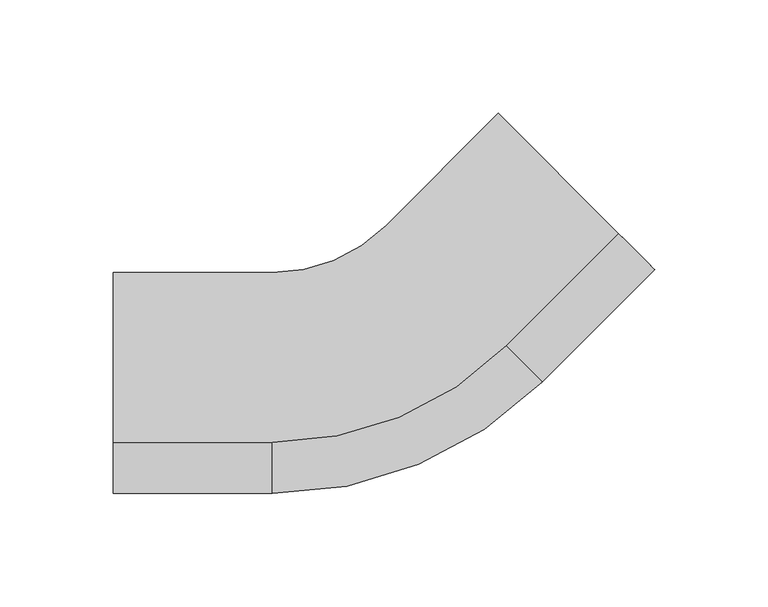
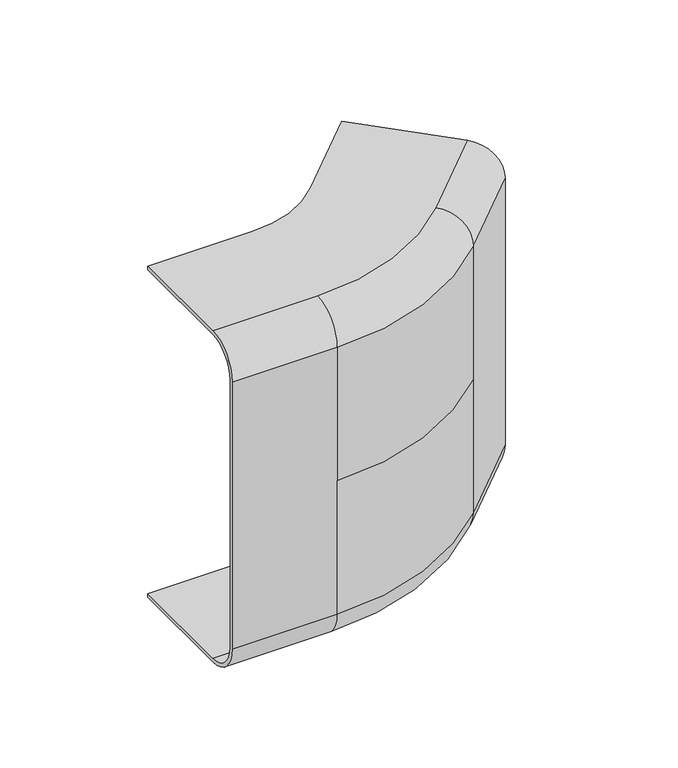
"""IFC4 building model written with IfcOpenShell, lengths in millimetres: cable carrier fitting geometry, ССT_Hyperline_FBTR-IRS45 Угол 45° внутренний (вверх) для оптического лотка : Угол 45° внутренний (вверх) для оптического лотка."""

from ifc_helpers import new_model, si_unit, point, frame, origin, place, context, project, spatial, polyline, circle_curve, ellipse_curve, trimmed, source, transform, mapped, element, save
from ifc_brep_helpers import plane_surface, cylinder_surface, revolved_surface, advanced_brep


def cable_carrier_fitting_4b1483c7(model_context):
    return source(origin(), model_context, "Body", "AdvancedBrep", [
        advanced_brep(
        [(116.6255217, 53.3960333, 94.0), (102.483386, 67.5381689, 114.0), (49.4786617, 120.5428932, 114.0), (49.4786617, 120.5428932, 116.54), (102.483386, 67.5381689, 116.54), (118.4215729, 51.5999821, 94.0), (118.4215729, 51.5999821, -94.0), (102.483386, 67.5381689, -116.54), (49.4786617, 120.5428932, -116.54), (49.4786617, 120.5428932, -114.0), (102.483386, 67.5381689, -114.0), (116.6255217, 53.3960333, -94.0), (52.9859114, 18.0406942, -114.0), (67.128047, 3.8985586, -94.0), (-0.018813, 71.0454185, -114.0), (-50.2233944, 50.25, -114.0), (-120.2233944, 50.25, -114.0), (-120.2233944, -24.71, -114.0), (-50.2233944, -24.71, -114.0), (-0.018813, 71.0454185, -116.54), (52.9859114, 18.0406942, -116.54), (-50.2233944, -24.71, -116.54), (-120.2233944, -24.71, -116.54), (-120.2233944, 50.25, -116.54), (-50.2233944, 50.25, -116.54), (68.9240982, 2.1025074, -94.0), (68.9240982, 2.1025074, 94.0), (68.9240982, 2.1025074, 0.0), (67.128047, 3.8985586, 0.0), (67.128047, 3.8985586, 94.0), (-50.2233944, -44.71, -94.0), (-50.2233944, -47.25, -94.0), (-50.2233944, -47.25, 0.0), (-50.2233944, -44.71, 0.0), (-120.2233944, -47.25, -94.0), (-120.2233944, -47.25, 94.0), (-120.2233944, -24.71, 116.54), (-120.2233944, 50.25, 116.54), (-120.2233944, 50.25, 114.0), (-120.2233944, -24.71, 114.0), (-120.2233944, -44.71, 94.0), (-120.2233944, -44.71, -94.0), (-50.2233944, -47.25, 94.0), (-50.2233944, -44.71, 94.0), (52.9859114, 18.0406942, 114.0), (-50.2233944, -24.71, 114.0), (-50.2233944, 50.25, 114.0), (-0.018813, 71.0454185, 114.0), (-0.018813, 71.0454185, 116.54), (-50.2233944, 50.25, 116.54), (-50.2233944, -24.71, 116.54), (52.9859114, 18.0406942, 116.54)],
        [
            (0, 1, circle_curve(frame((102.483386, 67.5381689, 94.0), z_axis=(-0.7071067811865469, -0.7071067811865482, 0.0), x_axis=(0.7071067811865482, -0.7071067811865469, 0.0)), 20.0)),
            (1, 2),
            (2, 3),
            (3, 4),
            (4, 5, circle_curve(frame((102.483386, 67.5381689, 94.0), z_axis=(0.7071067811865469, 0.7071067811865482, 0.0), x_axis=(0.7071067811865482, -0.7071067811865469, 0.0)), 22.54)),
            (5, 6),
            (6, 7, circle_curve(frame((102.483386, 67.5381689, -94.0), z_axis=(0.7071067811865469, 0.7071067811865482, 0.0), x_axis=(0.7071067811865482, -0.7071067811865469, 0.0)), 22.54)),
            (7, 8),
            (8, 9),
            (9, 10),
            (10, 11, circle_curve(frame((102.483386, 67.5381689, -94.0), z_axis=(-0.7071067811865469, -0.7071067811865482, 0.0), x_axis=(0.7071067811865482, -0.7071067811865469, 0.0)), 20.0)),
            (11, 0),
            (10, 12),
            (12, 13, circle_curve(frame((52.9859114, 18.0406942, -94.0), z_axis=(-0.7071067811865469, -0.7071067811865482, 0.0), x_axis=(0.7071067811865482, -0.7071067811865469, 0.0)), 20.0)),
            (13, 11),
            (9, 14),
            (14, 15, circle_curve(frame((-50.2233944, 121.25, -114.0), z_axis=(0.0, 0.0, -1.0), x_axis=(0.7071067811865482, -0.7071067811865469, 0.0)), 71.0)),
            (15, 16),
            (16, 17),
            (17, 18),
            (18, 12, circle_curve(frame((-50.2233944, 121.25, -114.0), z_axis=(0.0, 0.0, 1.0), x_axis=(0.7071067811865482, -0.7071067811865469, 0.0)), 145.96)),
            (8, 19),
            (19, 14),
            (7, 20),
            (20, 21, circle_curve(frame((-50.2233944, 121.25, -116.54), z_axis=(0.0, 0.0, -1.0), x_axis=(0.7071067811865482, -0.7071067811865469, 0.0)), 145.96)),
            (21, 22),
            (22, 23),
            (23, 24),
            (24, 19, circle_curve(frame((-50.2233944, 121.25, -116.54), z_axis=(0.0, 0.0, 1.0), x_axis=(0.7071067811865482, -0.7071067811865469, 0.0)), 71.0)),
            (6, 25),
            (25, 20, circle_curve(frame((52.9859114, 18.0406942, -94.0), z_axis=(0.7071067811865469, 0.7071067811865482, 0.0), x_axis=(0.7071067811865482, -0.7071067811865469, 0.0)), 22.54)),
            (5, 26),
            (26, 27),
            (27, 25),
            (13, 28),
            (28, 29),
            (29, 0),
            (18, 30, circle_curve(frame((-50.2233944, -24.71, -94.0), z_axis=(-1.0, 0.0, 0.0), x_axis=(0.0, -1.0, 0.0)), 20.0)),
            (30, 13, circle_curve(frame((-50.2233944, 121.25, -94.0), z_axis=(0.0, 0.0, 1.0), x_axis=(0.7071067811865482, -0.7071067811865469, 0.0)), 165.96)),
            (24, 15),
            (25, 31, circle_curve(frame((-50.2233944, 121.25, -94.0), z_axis=(0.0, 0.0, -1.0), x_axis=(0.7071067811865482, -0.7071067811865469, 0.0)), 168.5)),
            (31, 21, circle_curve(frame((-50.2233944, -24.71, -94.0), z_axis=(1.0, 0.0, 0.0), x_axis=(0.0, -1.0, 0.0)), 22.54)),
            (27, 32, circle_curve(frame((-50.2233944, 121.25, 0.0), z_axis=(0.0, 0.0, -1.0), x_axis=(0.7071067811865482, -0.7071067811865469, 0.0)), 168.5)),
            (32, 31),
            (30, 33),
            (33, 28, circle_curve(frame((-50.2233944, 121.25, 0.0), z_axis=(0.0, 0.0, 1.0), x_axis=(0.7071067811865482, -0.7071067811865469, 0.0)), 165.96)),
            (16, 23),
            (22, 34, circle_curve(frame((-120.2233944, -24.71, -94.0), z_axis=(-1.0, 0.0, 0.0), x_axis=(0.0, -1.0, 0.0)), 22.54)),
            (34, 35),
            (35, 36, circle_curve(frame((-120.2233944, -24.71, 94.0), z_axis=(-1.0, 0.0, 0.0), x_axis=(0.0, -1.0000000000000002, 0.0)), 22.54)),
            (36, 37),
            (37, 38),
            (38, 39),
            (39, 40, circle_curve(frame((-120.2233944, -24.71, 94.0), z_axis=(1.0, 0.0, 0.0), x_axis=(0.0, -1.0000000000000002, 0.0)), 20.0)),
            (40, 41),
            (41, 17, circle_curve(frame((-120.2233944, -24.71, -94.0), z_axis=(1.0, 0.0, 0.0), x_axis=(0.0, -1.0, 0.0)), 20.0)),
            (41, 30),
            (31, 34),
            (32, 42),
            (42, 35),
            (40, 43),
            (43, 33),
            (29, 44, circle_curve(frame((52.9859114, 18.0406942, 94.0), z_axis=(-0.7071067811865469, -0.7071067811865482, 0.0), x_axis=(0.7071067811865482, -0.7071067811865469, 0.0)), 20.0)),
            (44, 1),
            (44, 45, circle_curve(frame((-50.2233944, 121.25, 114.0), z_axis=(0.0, 0.0, -1.0), x_axis=(0.7071067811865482, -0.7071067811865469, 0.0)), 145.96)),
            (45, 39),
            (38, 46),
            (46, 47, circle_curve(frame((-50.2233944, 121.25, 114.0), z_axis=(0.0, 0.0, 1.0), x_axis=(0.7071067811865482, -0.7071067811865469, 0.0)), 71.0)),
            (47, 2),
            (47, 48),
            (48, 3),
            (48, 49, circle_curve(frame((-50.2233944, 121.25, 116.54), z_axis=(0.0, 0.0, -1.0), x_axis=(0.7071067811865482, -0.7071067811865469, 0.0)), 71.0)),
            (49, 37),
            (36, 50),
            (50, 51, circle_curve(frame((-50.2233944, 121.25, 116.54), z_axis=(0.0, 0.0, 1.0), x_axis=(0.7071067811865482, -0.7071067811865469, 0.0)), 145.96)),
            (51, 4),
            (51, 26, circle_curve(frame((52.9859114, 18.0406942, 94.0), z_axis=(0.7071067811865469, 0.7071067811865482, 0.0), x_axis=(0.7071067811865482, -0.7071067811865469, 0.0)), 22.54)),
            (29, 43, circle_curve(frame((-50.2233944, 121.25, 94.0), z_axis=(0.0, 0.0, -1.0), x_axis=(0.7071067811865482, -0.7071067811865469, 0.0)), 165.96)),
            (43, 45, circle_curve(frame((-50.2233944, -24.71, 94.0), z_axis=(-1.0, 0.0, 0.0), x_axis=(0.0, -1.0, 0.0)), 20.0)),
            (46, 49),
            (50, 42, circle_curve(frame((-50.2233944, -24.71, 94.0), z_axis=(1.0, 0.0, 0.0), x_axis=(0.0, -1.0, 0.0)), 22.54)),
            (42, 26, circle_curve(frame((-50.2233944, 121.25, 94.0), z_axis=(0.0, 0.0, 1.0), x_axis=(0.7071067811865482, -0.7071067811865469, 0.0)), 168.5)),
        ],
        [
            plane_surface(frame((84.126894, 85.8946609, -55.0), z_axis=(0.7071067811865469, 0.7071067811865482, 0.0), x_axis=(0.0, 0.0, 1.0))),
            revolved_surface(polyline([(67.12804697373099, 3.8985586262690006, -94.0), (116.62552167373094, 53.39603332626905, -94.0)]), (102.483386, 67.5381689, -94.0), (-0.7071067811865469, -0.7071067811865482, 0.0)),
            plane_surface(frame((49.4786617, 120.5428932, -114.0), z_axis=(0.0, 0.0, 1.0), x_axis=(-0.7071067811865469, -0.7071067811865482, 0.0))),
            plane_surface(frame((49.4786617, 120.5428932, -116.54), z_axis=(-0.7071067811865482, 0.7071067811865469, 0.0), x_axis=(-0.7071067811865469, -0.7071067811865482, 0.0))),
            plane_surface(frame((102.483386, 67.5381689, -116.54), z_axis=(0.0, 0.0, -1.0), x_axis=(-0.7071067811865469, -0.7071067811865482, 0.0))),
            cylinder_surface(frame((102.483386, 67.5381689, -94.0), z_axis=(0.7071067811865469, 0.7071067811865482, 0.0), x_axis=(0.7071067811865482, -0.7071067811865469, 0.0)), 22.54),
            plane_surface(frame((118.4215729, 51.5999821, 0.0), z_axis=(0.7071067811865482, -0.7071067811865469, 0.0), x_axis=(-0.7071067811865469, -0.7071067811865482, 0.0))),
            plane_surface(frame((116.6255217, 53.3960333, -94.0), z_axis=(-0.7071067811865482, 0.7071067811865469, 0.0), x_axis=(-0.7071067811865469, -0.7071067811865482, 0.0))),
            revolved_surface(trimmed(ellipse_curve(frame((52.9859114, 18.0406942, -94.0), z_axis=(-0.7071067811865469, -0.7071067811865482, 0.0), x_axis=(0.7071067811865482, -0.7071067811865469, 0.0)), 20.0, 20.0), [point((52.9859114, 18.0406942, -114.0))], [point((67.128047, 3.8985586, -94.0))], True, "CARTESIAN"), (-50.2233944, 121.25, -55.0), (0.0, 0.0, -1.0)),
            revolved_surface(polyline([(-0.018812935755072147, 71.04541853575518, -116.54), (-0.018812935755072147, 71.04541853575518, -114.0)]), (-50.2233944, 121.25, -55.0), (0.0, 0.0, -1.0)),
            revolved_surface(trimmed(ellipse_curve(frame((52.9859114, 18.0406942, -94.0), z_axis=(0.7071067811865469, 0.7071067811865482, 0.0), x_axis=(0.7071067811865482, -0.7071067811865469, 0.0)), 22.54, 22.54), [point((68.9240982, 2.1025074, -94.0))], [point((52.9859114, 18.0406942, -116.54))], True, "CARTESIAN"), (-50.2233944, 121.25, -55.0), (0.0, 0.0, -1.0)),
            cylinder_surface(frame((-50.2233944, 121.25, -55.0), z_axis=(0.0, 0.0, -1.0), x_axis=(0.7071067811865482, -0.7071067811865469, 0.0)), 168.5),
            revolved_surface(polyline([(67.12804700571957, 3.898558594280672, -94.0), (67.12804700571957, 3.898558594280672, 0.0)]), (-50.2233944, 121.25, -55.0), (0.0, 0.0, -1.0)),
            plane_surface(frame((-120.2233944, 1.25, -55.0), z_axis=(-1.0, 0.0, 0.0), x_axis=(0.0, 0.0, 1.0))),
            revolved_surface(polyline([(-120.22339439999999, -44.71, -94.0), (-50.2233944, -44.71, -94.0)]), (-50.2233944, -24.71, -94.0), (-1.0, 0.0, 0.0)),
            plane_surface(frame((-50.2233944, 50.25, -116.54), z_axis=(0.0, 1.0, 0.0), x_axis=(-1.0, 0.0, 0.0))),
            cylinder_surface(frame((-50.2233944, -24.71, -94.0), z_axis=(1.0, 0.0, 0.0), x_axis=(0.0, -1.0, 0.0)), 22.54),
            plane_surface(frame((-50.2233944, -47.25, 0.0), z_axis=(0.0, -1.0, 0.0), x_axis=(-1.0, 0.0, 0.0))),
            plane_surface(frame((-50.2233944, -44.71, -94.0), z_axis=(0.0, 1.0, 0.0), x_axis=(-1.0, 0.0, 0.0))),
            revolved_surface(polyline([(67.12804697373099, 3.8985586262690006, 94.0), (116.62552167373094, 53.39603332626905, 94.0)]), (102.483386, 67.5381689, 94.0), (-0.7071067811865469, -0.7071067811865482, 0.0)),
            plane_surface(frame((102.483386, 67.5381689, 114.0), z_axis=(0.0, 0.0, -1.0), x_axis=(-0.7071067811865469, -0.7071067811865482, 0.0))),
            plane_surface(frame((49.4786617, 120.5428932, 114.0), z_axis=(-0.7071067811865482, 0.7071067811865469, 0.0), x_axis=(-0.7071067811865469, -0.7071067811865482, 0.0))),
            plane_surface(frame((49.4786617, 120.5428932, 116.54), z_axis=(0.0, 0.0, 1.0), x_axis=(-0.7071067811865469, -0.7071067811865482, 0.0))),
            cylinder_surface(frame((102.483386, 67.5381689, 94.0), z_axis=(0.7071067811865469, 0.7071067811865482, 0.0), x_axis=(0.7071067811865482, -0.7071067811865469, 0.0)), 22.54),
            revolved_surface(trimmed(ellipse_curve(frame((52.9859114, 18.0406942, 94.0), z_axis=(-0.7071067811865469, -0.7071067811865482, 0.0), x_axis=(0.7071067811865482, -0.7071067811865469, 0.0)), 20.0, 20.0), [point((67.128047, 3.8985586, 94.0))], [point((52.9859114, 18.0406942, 114.0))], True, "CARTESIAN"), (-50.2233944, 121.25, 55.0), (0.0, 0.0, -1.0)),
            revolved_surface(polyline([(-0.018812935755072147, 71.04541853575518, 114.0), (-0.018812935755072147, 71.04541853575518, 116.54)]), (-50.2233944, 121.25, 55.0), (0.0, 0.0, -1.0)),
            revolved_surface(trimmed(ellipse_curve(frame((52.9859114, 18.0406942, 94.0), z_axis=(0.7071067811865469, 0.7071067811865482, 0.0), x_axis=(0.7071067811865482, -0.7071067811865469, 0.0)), 22.54, 22.54), [point((52.9859114, 18.0406942, 116.54))], [point((68.9240982, 2.1025074, 94.0))], True, "CARTESIAN"), (-50.2233944, 121.25, 55.0), (0.0, 0.0, -1.0)),
            cylinder_surface(frame((-50.2233944, 121.25, 55.0), z_axis=(0.0, 0.0, -1.0), x_axis=(0.7071067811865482, -0.7071067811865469, 0.0)), 168.5),
            revolved_surface(polyline([(67.12804700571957, 3.898558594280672, 0.0), (67.12804700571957, 3.898558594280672, 94.0)]), (-50.2233944, 121.25, 55.0), (0.0, 0.0, -1.0)),
            revolved_surface(polyline([(-120.22339440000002, -44.71000000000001, 94.0), (-50.2233944, -44.71000000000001, 94.0)]), (-50.2233944, -24.71, 94.0), (-1.0000000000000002, 0.0, 0.0)),
            plane_surface(frame((-50.2233944, 50.25, 114.0), z_axis=(0.0, 1.0, 0.0), x_axis=(-1.0, 0.0, 0.0))),
            cylinder_surface(frame((-50.2233944, -24.71, 94.0), z_axis=(1.0000000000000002, 0.0, 0.0), x_axis=(0.0, -1.0000000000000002, 0.0)), 22.54),
        ],
        [
            (0, [[1, 2, 3, 4, 5, 6, 7, 8, 9, 10, 11, 12]]),
            (1, [[-11, 13, 14, 15]]),
            (2, [[-10, 16, 17, 18, 19, 20, 21, -13]]),
            (3, [[-9, 22, 23, -16]]),
            (4, [[-8, 24, 25, 26, 27, 28, 29, -22]]),
            (5, [[-7, 30, 31, -24]]),
            (6, [[-6, 32, 33, 34, -30]]),
            (7, [[-12, -15, 35, 36, 37]]),
            (8, [[-14, -21, 38, 39]]),
            (9, [[-17, -23, -29, 40]]),
            (10, [[-25, -31, 41, 42]]),
            (11, [[-34, 43, 44, -41]]),
            (12, [[-35, -39, 45, 46]]),
            (13, [[-19, 47, -27, 48, 49, 50, 51, 52, 53, 54, 55, 56]]),
            (14, [[-20, -56, 57, -38]]),
            (15, [[-18, -40, -28, -47]]),
            (16, [[-26, -42, 58, -48]]),
            (17, [[-44, 59, 60, -49, -58]]),
            (18, [[-45, -57, -55, 61, 62]]),
            (19, [[-1, -37, 63, 64]]),
            (20, [[-2, -64, 65, 66, -53, 67, 68, 69]]),
            (21, [[-3, -69, 70, 71]]),
            (22, [[-4, -71, 72, 73, -51, 74, 75, 76]]),
            (23, [[-5, -76, 77, -32]]),
            (24, [[-63, 78, 79, -65]]),
            (25, [[-68, 80, -72, -70]]),
            (26, [[-75, 81, 82, -77]]),
            (27, [[-33, -82, -59, -43]]),
            (28, [[-36, -46, -62, -78]]),
            (29, [[-66, -79, -61, -54]]),
            (30, [[-67, -52, -73, -80]]),
            (31, [[-74, -50, -60, -81]]),
        ],
    ),
    ])


if __name__ == "__main__":
    model = new_model("IFC4")
    model_context = context("Model", 3, world=origin())
    ifc_project = project(units=[si_unit("LENGTHUNIT", "METRE", prefix="MILLI")], contexts=[model_context])
    site = spatial("IfcSite", under=ifc_project)
    building = spatial("IfcBuilding", under=site)
    placement = place(None, origin())
    cable_carrier_fitting_shape = cable_carrier_fitting_4b1483c7(model_context)
    element("IfcCableCarrierFitting", 1, ObjectType="ССT_Hyperline_FBTR-IRS45 Угол 45° внутренний (вверх) для оптического лотка : Угол 45° внутренний (вверх) для оптического лотка", at=placement, inside=building, context=model_context, shape_type="MappedRepresentation", body=[
        mapped(cable_carrier_fitting_shape, transform((0.0, 0.0, 0.0), x_axis=(1.0, 0.0, 0.0), y_axis=(0.0, 1.0, 0.0), z_axis=(0.0, 0.0, 1.0))),
    ])
    save(model, "model.ifc")
